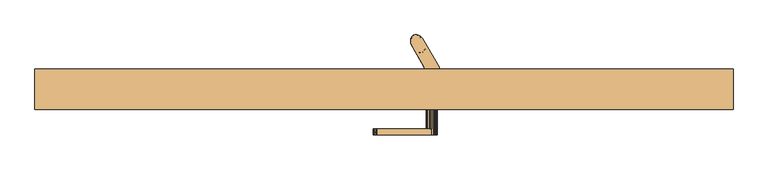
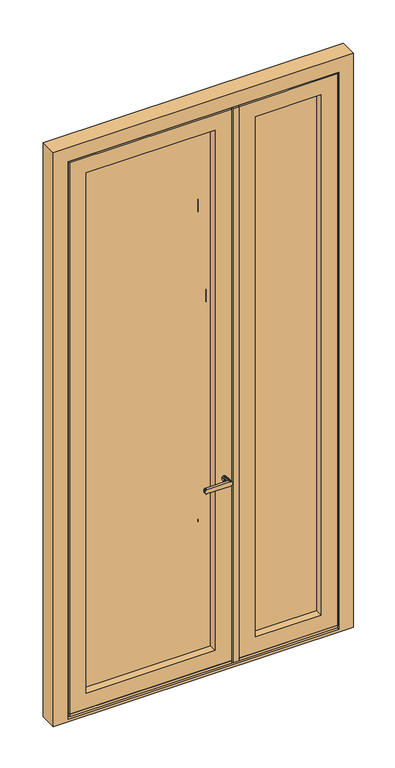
"""IFC4 building model written with IfcOpenShell, lengths in millimetres: door geometry, SAS ENTREE RDC 2x90."""

from ifc_helpers import new_model, si_unit, frame, origin, place, context, project, spatial, polyline, outline, extrude, faceted_brep, source, transform, mapped, element, save


def door_4b923fdf(model_context):
    return source(origin(), model_context, "Body", "SolidModel", [
        faceted_brep([(596.8067219, 464.9671188, 3173.5), (593.3206353, 464.7977178, 3173.5), (590.2202405, 463.6325784, 3173.5), (587.6610041, 461.5301259, 3173.5), (585.7712569, 458.5957857, 3173.5), (584.6457588, 454.9766982, 3173.5), (584.3409469, 450.8543393, 3173.5), (584.8721059, 446.4354214, 3173.5), (586.212601, 441.9415275, 3173.5), (588.2952144, 437.5980002, 3173.5), (591.0155151, 433.622642, 3173.5), (594.2370958, 430.2147941, 3173.5), (597.7984131, 427.5453402, 3173.5), (601.5208876, 425.7481378, 3173.5), (605.2178589, 424.9133062, 3173.5), (608.7039455, 425.0827073, 3173.5), (611.8043404, 426.2478466, 3173.5), (614.3635768, 428.3502991, 3173.5), (616.2533239, 431.2846393, 3173.5), (617.3788221, 434.9037268, 3173.5), (617.6836339, 439.0260857, 3173.5), (617.152475, 443.4450036, 3173.5), (615.8119798, 447.9388975, 3173.5), (613.7293665, 452.2824248, 3173.5), (611.0090658, 456.257783, 3173.5), (607.787485, 459.6656309, 3173.5), (604.2261678, 462.3350848, 3173.5), (600.5036932, 464.1322872, 3173.5), (614.3635768, 428.3502991, 213.5), (611.8043404, 426.2478466, 213.5), (608.7039455, 425.0827073, 213.5), (605.2178589, 424.9133062, 213.5), (601.5208876, 425.7481378, 213.5), (597.7984131, 427.5453402, 213.5), (594.2370958, 430.2147941, 213.5), (591.0155151, 433.622642, 213.5), (588.2952144, 437.5980002, 213.5), (586.212601, 441.9415275, 213.5), (584.8721059, 446.4354214, 213.5), (584.3409469, 450.8543393, 213.5), (584.6457588, 454.9766982, 213.5), (585.7712569, 458.5957857, 213.5), (587.6610041, 461.5301259, 213.5), (590.2202405, 463.6325784, 213.5), (593.3206353, 464.7977178, 213.5), (596.8067219, 464.9671188, 213.5), (600.5036932, 464.1322872, 213.5), (604.2261678, 462.3350848, 213.5), (607.787485, 459.6656309, 213.5), (611.0090658, 456.257783, 213.5), (613.7293665, 452.2824248, 213.5), (615.8119798, 447.9388975, 213.5), (617.152475, 443.4450036, 213.5), (617.6836339, 439.0260857, 213.5), (617.3788221, 434.9037268, 213.5), (616.2533239, 431.2846393, 213.5), (590.4499558, 463.7611995, 3109.7202739), (588.2952144, 437.5980002, 305.882384), (585.1085075, 456.8611962, 306.4622832), (598.640293, 464.6737836, 3080.5377144), (598.6402944, 464.6737832, 297.5878259), (597.2620664, 464.9171769, 447.5991387), (603.7250445, 462.633364, 369.6983238), (591.711958, 464.3371112, 368.3639702), (602.8653536, 463.1036002, 2017.9320828), (603.0687486, 462.9970291, 1923.1622134), (591.3227774, 464.1816353, 1969.471021), (584.3331908, 451.4374691, 3017.3016839), (588.8642379, 462.6929778, 3018.6360152), (585.5845848, 458.1711125, 2941.5941552), (588.2952144, 437.5980002, 3081.117616), (613.7293665, 452.2824248, 3081.1176143), (613.7293665, 452.2824248, 305.8823857), (601.1198392, 463.9007366, 2991.9159098), (584.5382143, 454.3273204, 395.0841039), (588.2952144, 437.5980002, 398.264768), (589.9939933, 463.4979492, 277.27972), (588.976153, 462.7836018, 1319.9077775), (589.7796697, 463.3627966, 1415.6471907), (601.3998252, 463.7869455, 1361.207705), (587.1572269, 460.9165369, 460.8307156), (592.0495868, 464.4572952, 528.0009637), (602.6527496, 463.2119189, 2756.8613183), (613.7293665, 452.2824248, 2710.4119218), (602.66564, 463.2054407, 2664.1031244), (585.1085082, 456.8611986, 3089.4121677), (584.3854571, 452.9196575, 1554.573611), (584.3448357, 452.1422464, 1651.9272043), (590.1564077, 463.5954092, 1600.8824188), (613.7293665, 452.2824248, 2988.7352287), (602.2392571, 463.4136252, 2849.455968), (613.7293665, 452.2824248, 2895.8823842), (613.7293665, 452.2824248, 2803.9704641), (613.7293665, 452.2824248, 2803.0295398), (584.3491777, 450.5987754, 721.6031625), (584.3683938, 452.6570795, 813.9855457), (591.6805436, 464.3252466, 769.1927828), (590.674165, 463.879234, 2710.4119319), (584.3863686, 452.9323319, 2480.6321356), (590.1593345, 463.5971273, 2433.4275348), (584.3576349, 452.4557224, 2388.1321376), (590.2843465, 463.6692748, 2525.1767042), (590.6741649, 463.8792339, 2617.7675376), (602.5405107, 463.2678387, 2570.094555), (588.2952144, 437.5980002, 952.5590718), (584.341774, 452.04303, 900.9287605), (588.2952144, 437.5980002, 860.1766878), (584.3792653, 452.8303552, 2201.0537221), (588.2952144, 437.5980002, 2249.2056961), (584.3576349, 452.4557225, 2295.5145235), (601.4930908, 463.7478511, 1732.6163357), (589.0552669, 462.8461042, 1694.8280712), (589.9680477, 463.4819893, 1788.9182175), (584.3535746, 452.3680714, 2573.0145176), (602.57149, 463.2524913, 1183.5150777), (602.9222982, 463.0740541, 1093.585659), (590.9146224, 463.9979308, 1134.754917), (584.3674595, 452.6409754, 1461.9559969), (588.2952144, 437.5980002, 1508.264768), (584.3560417, 452.4222865, 1371.4406735), (588.2952144, 437.5980002, 1415.6471519), (591.1522937, 464.1075509, 1878.9479538), (584.3676289, 452.6439126, 1832.4264532), (584.4509178, 453.6447667, 1925.0440673), (584.4216398, 453.3567772, 2664.0897353), (588.2952144, 437.5980002, 2341.8233122), (588.2952144, 437.5980002, 2432.5590722), (588.2952144, 437.5980002, 2434.4409282), (601.5334712, 463.7307401, 2384.8851606), (589.5361252, 463.1997646, 2341.8233312), (602.5253113, 463.2753443, 1829.1061855), (603.4915363, 462.7662363, 1645.4269877), (613.7293665, 452.2824248, 1969.4709896), (588.7615012, 462.6074467, 2864.0921725), (593.797621, 464.8834207, 2930.7084554), (613.7293665, 452.2824248, 1691.6181474), (613.7293665, 452.2824248, 1600.882384), (613.7293665, 452.2824248, 1599.2357617), (602.4089519, 463.3322747, 1457.4592045), (601.2348908, 463.854626, 1272.1664524), (613.7293665, 452.2824248, 1322.0886105), (613.7293665, 452.2824248, 1230.4119199), (613.7293665, 452.2824248, 1229.7062249), (584.3687755, 452.6635968, 1184.1031546), (590.1860605, 463.6127544, 1224.4782647), (584.3407574, 452.0061998, 1739.8088391), (588.2952144, 437.5980002, 1693.5), (588.2952144, 437.5980002, 1784.2357596), (588.2952144, 437.5980002, 1786.117616), (613.7293665, 452.2824248, 1878.735232), (613.7293665, 452.2824248, 1876.8533775), (602.163301, 463.4493953, 2476.0712384), (588.2952144, 437.5980002, 2339.941457), (613.7293665, 452.2824248, 2432.5590737), (613.7293665, 452.2824248, 2341.8233122), (613.7293665, 452.2824248, 2339.9414616), (584.4440531, 453.5809697, 2760.2029636), (588.2952144, 437.5980002, 2711.5880801), (590.2482291, 463.6486774, 1508.2251806), (602.668172, 463.2041669, 2108.3974412), (590.2856652, 463.6700231, 2156.5881032), (602.6424241, 463.2170997, 2201.0150551), (584.531336, 454.2800512, 2015.8333542), (584.4239259, 453.3809152, 2106.5480553), (590.6155836, 463.8490917, 2062.9662927), (588.2952144, 437.5980002, 767.7943039), (613.7293665, 452.2824248, 1044.9414594), (603.1550342, 462.9509461, 1008.1234025), (588.2952144, 437.5980002, 490.6471519), (584.3968634, 449.7531606, 461.1498017), (584.3575048, 452.4530358, 627.5817946), (584.4080079, 453.2055472, 536.8383937), (588.2952144, 437.5980002, 583.0295359), (601.9417644, 463.5514578, 713.3140472), (597.3229112, 464.9093372, 619.4560475), (588.1396118, 462.0377675, 689.6168276), (584.4131422, 453.2640699, 1085.3241351), (588.2952144, 437.5980002, 1137.7943039), (584.3371389, 451.8487196, 1276.7207687), (613.7293665, 452.2824248, 490.6471512), (613.7293665, 452.2824248, 398.2647713), (607.6466053, 459.7909707, 444.4560006), (613.7293665, 452.2824248, 860.176688), (604.0391138, 462.4485303, 906.3679313), (613.7293665, 452.2824248, 952.5590737), (588.2548113, 462.1504562, 621.8958332), (588.2952144, 437.5980002, 675.4119199), (590.2202406, 463.6325785, 853.4847613), (602.6512252, 463.2126842, 813.9855493), (604.9224541, 461.8904181, 2924.3179136), (613.7293665, 452.2824248, 2896.3528481), (591.7057261, 464.3347669, 2788.9717797), (584.8363626, 446.6084453, 2942.5440454), (588.2952144, 437.5980002, 2896.3528481), (588.2952144, 437.5980002, 2988.735232), (613.7293665, 452.2824248, 2619.2056961), (613.7293665, 452.2824248, 2617.7943038), (613.7293665, 452.2824248, 2711.5880801), (613.7293665, 452.2824248, 2525.1766858), (613.7293665, 452.2824248, 2434.4409282), (588.2952144, 437.5980002, 2525.1766874), (588.2952144, 437.5980002, 2526.8233122), (588.2952144, 437.5980002, 2803.029539), (588.2952144, 437.5980002, 2803.9704641), (601.8315197, 463.6009922, 2293.632669), (613.7293665, 452.2824248, 2154.7062256), (613.7293665, 452.2824248, 2249.2056961), (613.7293665, 452.2824248, 2247.3238436), (589.5992496, 463.2430151, 2250.0419288), (588.2952144, 437.5980002, 2617.7943085), (588.2952144, 437.5980002, 2619.2056961), (613.7293665, 452.2824248, 2526.8233122), (588.2952144, 437.5980002, 2710.4119238), (588.2952144, 437.5980002, 2156.5880801), (588.2952144, 437.5980002, 1878.735232), (588.2952144, 437.5980002, 1969.4709901), (588.2952144, 437.5980002, 1971.3528481), (588.2952144, 437.5980002, 2062.0886054), (588.2952144, 437.5980002, 2063.9704641), (613.7293665, 452.2824248, 2156.5880801), (613.7293665, 452.2824248, 2063.9704641), (613.7293665, 452.2824248, 2062.0886076), (588.2952144, 437.5980002, 2154.7062206), (588.2952144, 437.5980002, 2247.3238359), (613.7293665, 452.2824248, 1971.3528481), (613.7293665, 452.2824248, 1784.2357654), (613.7293665, 452.2824248, 1693.5), (613.7293665, 452.2824248, 1786.117616), (602.2568415, 463.4052876, 1553.0446058), (613.7293665, 452.2824248, 1506.853376), (613.7293665, 452.2824248, 1508.264768), (613.7293665, 452.2824248, 1414.4709962), (613.7293665, 452.2824248, 1323.0295359), (613.7293665, 452.2824248, 1137.323845), (613.7293665, 452.2824248, 1137.7943039), (588.2952144, 437.5980002, 1229.7062181), (588.2952144, 437.5980002, 1230.4119199), (588.2952144, 437.5980002, 1322.0886068), (588.2952144, 437.5980002, 1323.0295359), (584.6396633, 454.9435278, 986.3205896), (591.4648925, 464.2405737, 1044.9415053), (588.2952144, 437.5980002, 1045.1766878), (592.6430493, 464.6374177, 948.5095776), (588.2952144, 437.5980002, 1599.2357615), (588.2952144, 437.5980002, 1600.882384), (588.2952144, 437.5980002, 1876.8533749), (588.2952144, 437.5980002, 1414.4709956), (588.2952144, 437.5980002, 1506.8533785), (613.7293665, 452.2824248, 1415.6471519), (613.7293665, 452.2824248, 1045.1766878), (613.7293665, 452.2824248, 767.7943023), (607.6249513, 459.8100799, 629.2207827), (613.7293665, 452.2824248, 675.4119225), (613.7293665, 452.2824248, 583.0295368), (588.2952144, 437.5980002, 1691.6181444), (604.5793543, 462.1139705, 536.8383992), (588.2952144, 437.5980002, 1044.9414522), (588.2952144, 437.5980002, 1137.3238351), (584.3466632, 450.6679399, 2850.1616636), (588.2952144, 437.5980002, 2895.8823866), (611.574625, 426.1192255, 3109.7202739), (616.9160734, 433.0192288, 306.4622832), (603.3842879, 425.2066414, 3080.5377144), (603.3842865, 425.2066418, 297.5878259), (604.7625145, 424.9632481, 447.5991387), (598.2995363, 427.247061, 369.6983238), (610.3126228, 425.5433138, 368.3639702), (599.1592273, 426.7768248, 2017.9320828), (598.9558323, 426.8833959, 1923.1622134), (610.7018035, 425.6987897, 1969.471021), (617.6913901, 438.4429559, 3017.3016839), (613.160343, 427.1874472, 3018.6360152), (616.439996, 431.7093125, 2941.5941552), (600.9047417, 425.9796884, 2991.9159098), (617.4863666, 435.5531046, 395.0841039), (612.0305876, 426.3824758, 277.27972), (613.0484279, 427.0968232, 1319.9077775), (612.2449112, 426.5176284, 1415.6471907), (600.6247556, 426.0934795, 1361.207705), (614.867354, 428.9638881, 460.8307156), (609.974994, 425.4231298, 528.0009637), (599.3718313, 426.6685061, 2756.8613183), (599.3589408, 426.6749843, 2664.1031244), (616.9160726, 433.0192264, 3089.4121677), (617.6391237, 436.9607675, 1554.573611), (617.6797452, 437.7381786, 1651.9272043), (611.8681731, 426.2850158, 1600.8824188), (599.7853238, 426.4667998, 2849.455968), (617.6754031, 439.2816496, 721.6031625), (617.6561871, 437.2233455, 813.9855457), (610.3440372, 425.5551785, 769.1927828), (611.3504159, 426.001191, 2710.4119319), (617.6382123, 436.9480931, 2480.6321356), (611.8652464, 426.2832977, 2433.4275348), (617.666946, 437.4247026, 2388.1321376), (611.7402344, 426.2111502, 2525.1767042), (611.350416, 426.0011911, 2617.7675376), (599.4840702, 426.6125863, 2570.094555), (617.6828069, 437.837395, 900.9287605), (617.6453155, 437.0500698, 2201.0537221), (617.666946, 437.4247025, 2295.5145235), (600.5314901, 426.1325739, 1732.6163357), (612.969314, 427.0343208, 1694.8280712), (612.0565331, 426.3984357, 1788.9182175), (617.6710063, 437.5123536, 2573.0145176), (599.4530909, 426.6279337, 1183.5150777), (599.1022826, 426.8063709, 1093.585659), (611.1099584, 425.8824942, 1134.754917), (617.6571214, 437.2394496, 1461.9559969), (610.8722872, 425.7728741, 1878.9479538), (617.6569519, 437.2365124, 1832.4264532), (617.5736631, 436.2356583, 1925.0440673), (617.602941, 436.5236478, 2664.0897353), (600.4911096, 426.1496849, 2384.8851606), (612.4884557, 426.6806604, 2341.8233312), (599.4992696, 426.6050807, 1829.1061855), (598.5330446, 427.1141887, 1645.4269877), (613.2630797, 427.2729783, 2864.0921725), (608.2269598, 424.9970043, 2930.7084554), (599.6156289, 426.5481503, 1457.4592045), (600.7896901, 426.025799, 1272.1664524), (617.6558053, 437.2168282, 1184.1031546), (611.8385203, 426.2676706, 1224.4782647), (617.6838234, 437.8742252, 1739.8088391), (599.8612799, 426.4310297, 2476.0712384), (617.5805278, 436.2994553, 2760.2029636), (611.7763518, 426.2317476, 1508.2251806), (599.3564089, 426.6762581, 2108.3974412), (611.7389157, 426.2104019, 2156.5881032), (599.3821568, 426.6633253, 2201.0150551), (617.4932449, 435.6003738, 2015.8333542), (617.6006549, 436.4995098, 2106.5480553), (611.4089972, 426.0313333, 2062.9662927), (598.8695467, 426.9294789, 1008.1234025), (617.6277175, 440.1272644, 461.1498017), (617.667076, 437.4273892, 627.5817946), (617.616573, 436.6748778, 536.8383937), (600.0828164, 426.3289672, 713.3140472), (604.7016696, 424.9710878, 619.4560475), (613.8849691, 427.8426575, 689.6168276), (617.6114387, 436.6163551, 1085.3241351), (617.687442, 438.0317054, 1276.7207687), (594.3779756, 430.0894543, 444.4560006), (597.985467, 427.4318947, 906.3679313), (613.7697695, 427.7299688, 621.8958332), (611.8043403, 426.2478465, 853.4847613), (599.3733557, 426.6677408, 813.9855493), (597.1021268, 427.9900069, 2924.3179136), (610.3188548, 425.5456581, 2788.9717797), (617.1882183, 443.2719797, 2942.5440454), (600.1930612, 426.2794328, 2293.632669), (612.4253313, 426.6374099, 2250.0419288), (599.7677394, 426.4751374, 1553.0446058), (617.6685392, 437.4581385, 1371.4406735), (617.3849175, 434.9368972, 986.3205896), (610.5596884, 425.6398513, 1044.9415053), (609.3815316, 425.2430073, 948.5095776), (594.3996296, 430.0703451, 629.2207827), (597.4452266, 427.7664545, 536.8383992), (617.6779177, 439.2124851, 2850.1616636)], [[[0, 1, 2, 3, 4, 5, 6, 7, 8, 9, 10, 11, 12, 13, 14, 15, 16, 17, 18, 19, 20, 21, 22, 23, 24, 25, 26, 27]], [[28, 29, 30, 31, 32, 33, 34, 35, 36, 37, 38, 39, 40, 41, 42, 43, 44, 45, 46, 47, 48, 49, 50, 51, 52, 53, 54, 55]], [[56, 3, 2]], [[38, 57, 58]], [[59, 26, 25]], [[59, 0, 27]], [[47, 60, 48]], [[61, 62, 63]], [[64, 65, 66]], [[67, 68, 69]], [[45, 60, 46]], [[0, 56, 1]], [[70, 9, 8]], [[37, 36, 57]], [[24, 23, 71]], [[72, 50, 49]], [[59, 73, 68]], [[47, 46, 60]], [[74, 57, 75]], [[58, 76, 41]], [[77, 78, 79]], [[25, 24, 71]], [[80, 81, 61]], [[82, 83, 84]], [[6, 85, 7]], [[7, 70, 8]], [[86, 87, 88]], [[58, 57, 74]], [[60, 62, 72]], [[26, 59, 27]], [[73, 71, 89]], [[85, 67, 70]], [[76, 45, 44]], [[39, 58, 40]], [[90, 91, 92, 93]], [[94, 95, 96]], [[76, 44, 43]], [[84, 97, 82]], [[6, 5, 85]], [[98, 99, 100]], [[59, 56, 0]], [[85, 56, 68]], [[101, 102, 103]], [[58, 41, 40]], [[38, 37, 57]], [[60, 45, 76]], [[25, 71, 59]], [[76, 42, 41]], [[4, 3, 56]], [[63, 58, 74]], [[60, 76, 63]], [[4, 85, 5]], [[38, 58, 39]], [[48, 72, 49]], [[104, 105, 106]], [[56, 85, 4]], [[60, 72, 48]], [[59, 71, 73]], [[67, 85, 68]], [[62, 60, 63]], [[85, 70, 7]], [[107, 108, 109]], [[110, 111, 112]], [[98, 113, 101]], [[114, 115, 116]], [[86, 117, 118]], [[119, 120, 117]], [[121, 122, 123]], [[97, 102, 124]], [[100, 125, 126, 127]], [[99, 128, 129]], [[121, 130, 112]], [[131, 88, 111]], [[65, 64, 132]], [[112, 130, 110]], [[133, 69, 134]], [[131, 135, 136, 137]], [[78, 138, 79]], [[139, 140, 141, 142]], [[116, 143, 144]], [[145, 146, 147, 148]], [[65, 132, 149, 150]], [[151, 101, 103]], [[109, 108, 152, 125]], [[128, 153, 154, 155]], [[156, 124, 157]], [[158, 138, 78]], [[159, 160, 161]], [[162, 163, 164]], [[164, 159, 64]], [[95, 165, 106]], [[115, 166, 167]], [[75, 168, 169]], [[170, 171, 172]], [[173, 174, 175]], [[143, 176, 177]], [[178, 144, 143]], [[179, 180, 181]], [[171, 168, 172]], [[182, 183, 184]], [[170, 175, 185]], [[80, 169, 171]], [[94, 170, 186]], [[171, 81, 80]], [[95, 105, 187]], [[96, 173, 175]], [[96, 187, 188]], [[189, 89, 190, 91]], [[191, 90, 82]], [[124, 156, 97]], [[192, 193, 194]], [[82, 90, 93]], [[134, 189, 90]], [[90, 133, 134]], [[84, 83, 195, 196]], [[191, 82, 97]], [[82, 93, 197, 83]], [[103, 84, 196]], [[102, 97, 84]], [[151, 198, 199, 153]], [[198, 151, 103]], [[103, 102, 84]], [[102, 101, 113]], [[98, 127, 200, 201]], [[156, 157, 202, 203]], [[204, 128, 155]], [[99, 101, 151]], [[161, 205, 159]], [[204, 155, 206, 207]], [[204, 161, 208]], [[134, 68, 73]], [[191, 156, 133]], [[113, 201, 209, 210]], [[124, 113, 210]], [[98, 101, 99]], [[103, 196, 211, 198]], [[113, 124, 102]], [[98, 201, 113]], [[124, 210, 212, 157]], [[128, 99, 151]], [[125, 100, 109]], [[128, 151, 153]], [[129, 128, 204]], [[100, 99, 129]], [[98, 100, 127]], [[109, 100, 129]], [[107, 109, 208]], [[129, 208, 109]], [[163, 107, 160]], [[163, 213, 107]], [[204, 208, 129]], [[160, 107, 208]], [[160, 164, 163]], [[123, 214, 215, 216]], [[162, 216, 217, 218]], [[163, 162, 218]], [[123, 66, 121]], [[207, 161, 204]], [[162, 66, 123]], [[161, 207, 219, 205]], [[159, 205, 220, 221]], [[208, 161, 160]], [[64, 159, 221]], [[159, 164, 160]], [[163, 218, 222, 213]], [[107, 213, 223, 108]], [[164, 64, 66]], [[64, 221, 224, 132]], [[130, 65, 150]], [[121, 66, 65]], [[110, 225, 226, 135]], [[225, 110, 130]], [[131, 110, 135]], [[110, 131, 111]], [[130, 121, 65]], [[121, 112, 122]], [[130, 150, 227, 225]], [[138, 228, 229]], [[228, 137, 230, 229]], [[158, 88, 228]], [[79, 231, 232, 140]], [[231, 79, 138]], [[114, 139, 142]], [[79, 139, 77]], [[115, 114, 233]], [[114, 142, 234, 233]], [[139, 114, 144]], [[143, 177, 235, 236]], [[78, 119, 117]], [[143, 236, 178]], [[178, 236, 237, 238]], [[116, 176, 143]], [[239, 176, 240]], [[239, 241, 176]], [[242, 239, 240]], [[187, 105, 242]], [[86, 118, 243, 244]], [[122, 148, 245, 214]], [[112, 145, 122]], [[123, 122, 214]], [[145, 112, 111]], [[86, 244, 87]], [[145, 87, 146]], [[86, 88, 158]], [[138, 158, 228]], [[158, 78, 117]], [[158, 117, 86]], [[78, 77, 119]], [[119, 238, 246, 120]], [[117, 120, 247, 118]], [[119, 77, 178]], [[66, 162, 164]], [[216, 162, 123]], [[138, 229, 248, 231]], [[167, 184, 183]], [[116, 115, 240]], [[115, 233, 249, 166]], [[176, 116, 240]], [[114, 116, 144]], [[167, 240, 115]], [[187, 183, 188]], [[188, 250, 173]], [[250, 188, 182]], [[183, 187, 242]], [[251, 252, 253]], [[171, 170, 185]], [[105, 95, 106]], [[239, 105, 104]], [[95, 187, 96]], [[122, 145, 148]], [[87, 145, 111]], [[87, 111, 88]], [[87, 244, 254, 146]], [[173, 252, 251]], [[174, 251, 255]], [[137, 228, 131]], [[88, 131, 228]], [[77, 139, 144]], [[139, 79, 140]], [[119, 178, 238]], [[178, 77, 144]], [[186, 165, 94]], [[185, 175, 174]], [[170, 172, 186]], [[184, 167, 166]], [[242, 240, 167]], [[239, 104, 256, 241]], [[176, 241, 257, 177]], [[105, 239, 242]], [[255, 253, 179]], [[72, 62, 180]], [[80, 63, 74]], [[61, 181, 62]], [[61, 81, 255]], [[258, 203, 259, 193]], [[70, 67, 194]], [[258, 156, 203]], [[69, 192, 67]], [[69, 133, 258]], [[188, 183, 182]], [[167, 183, 242]], [[173, 96, 188]], [[96, 175, 94]], [[173, 250, 252]], [[63, 80, 61]], [[80, 74, 169]], [[95, 94, 165]], [[170, 94, 175]], [[258, 193, 192]], [[156, 258, 133]], [[68, 134, 69]], [[134, 73, 189]], [[89, 189, 73]], [[90, 189, 91]], [[255, 179, 181]], [[174, 255, 81]], [[75, 169, 74]], [[171, 169, 168]], [[156, 191, 97]], [[90, 191, 133]], [[42, 76, 43]], [[63, 76, 58]], [[1, 56, 2]], [[68, 56, 59]], [[174, 81, 185]], [[171, 185, 81]], [[62, 181, 180]], [[255, 181, 61]], [[67, 192, 194]], [[258, 192, 69]], [[255, 251, 253]], [[173, 251, 174]], [[260, 17, 16]], [[52, 72, 261]], [[262, 12, 11]], [[262, 14, 13]], [[33, 263, 34]], [[264, 265, 266]], [[267, 268, 269]], [[270, 271, 272]], [[31, 263, 32]], [[14, 260, 15]], [[71, 23, 22]], [[51, 50, 72]], [[10, 9, 70]], [[57, 36, 35]], [[262, 273, 271]], [[33, 32, 263]], [[274, 72, 180]], [[261, 275, 55]], [[276, 277, 278]], [[11, 10, 70]], [[279, 280, 264]], [[281, 212, 282]], [[20, 283, 21]], [[21, 71, 22]], [[284, 285, 286]], [[261, 72, 274]], [[263, 265, 57]], [[12, 262, 13]], [[273, 70, 194]], [[283, 270, 71]], [[275, 31, 30]], [[53, 261, 54]], [[287, 259, 203, 202]], [[288, 289, 290]], [[275, 30, 29]], [[282, 291, 281]], [[20, 19, 283]], [[292, 293, 294]], [[262, 260, 14]], [[283, 260, 271]], [[295, 296, 297]], [[261, 55, 54]], [[52, 51, 72]], [[263, 31, 275]], [[11, 70, 262]], [[275, 28, 55]], [[18, 17, 260]], [[266, 261, 274]], [[263, 275, 266]], [[18, 283, 19]], [[52, 261, 53]], [[34, 57, 35]], [[184, 298, 182]], [[260, 283, 18]], [[263, 57, 34]], [[262, 70, 273]], [[270, 283, 271]], [[265, 263, 266]], [[283, 71, 21]], [[299, 206, 300]], [[301, 302, 303]], [[292, 304, 295]], [[305, 306, 307]], [[284, 230, 137, 136]], [[308, 230, 284]], [[309, 310, 311]], [[291, 296, 312]], [[294, 154, 153, 199]], [[293, 313, 314]], [[309, 315, 303]], [[316, 286, 302]], [[268, 267, 215]], [[303, 315, 301]], [[317, 272, 318]], [[316, 254, 244, 243]], [[277, 319, 278]], [[320, 237, 236, 235]], [[307, 321, 322]], [[323, 226, 225, 227]], [[268, 215, 214, 245]], [[324, 295, 297]], [[300, 206, 155, 154]], [[313, 126, 125, 152]], [[325, 312, 197]], [[326, 319, 277]], [[327, 328, 329]], [[330, 331, 332]], [[332, 327, 267]], [[289, 250, 182]], [[306, 256, 333]], [[180, 179, 334]], [[335, 336, 253]], [[337, 338, 339]], [[321, 340, 234]], [[341, 322, 321]], [[168, 75, 342]], [[336, 179, 253]], [[106, 343, 104]], [[335, 339, 344]], [[279, 334, 336]], [[288, 335, 252]], [[336, 280, 279]], [[289, 298, 345]], [[290, 337, 339]], [[290, 345, 346]], [[347, 194, 193, 259]], [[348, 287, 281]], [[312, 325, 291]], [[349, 190, 89]], [[281, 287, 202]], [[318, 347, 287]], [[287, 317, 318]], [[282, 212, 210, 209]], [[348, 281, 291]], [[281, 202, 157, 212]], [[297, 282, 209]], [[296, 291, 282]], [[324, 200, 127, 126]], [[200, 324, 297]], [[297, 296, 282]], [[296, 295, 304]], [[292, 199, 198, 211]], [[325, 197, 93, 92]], [[350, 313, 152]], [[293, 295, 324]], [[329, 222, 327]], [[350, 152, 108, 223]], [[350, 329, 351]], [[318, 271, 273]], [[348, 325, 317]], [[304, 211, 196, 195]], [[312, 304, 195]], [[292, 295, 293]], [[297, 209, 201, 200]], [[304, 312, 296]], [[292, 211, 304]], [[312, 195, 83, 197]], [[313, 293, 324]], [[154, 294, 300]], [[313, 324, 126]], [[314, 313, 350]], [[294, 293, 314]], [[292, 294, 199]], [[300, 294, 314]], [[299, 300, 351]], [[314, 351, 300]], [[331, 299, 328]], [[331, 219, 299]], [[350, 351, 314]], [[328, 299, 351]], [[328, 332, 331]], [[311, 149, 132, 224]], [[330, 224, 221, 220]], [[331, 330, 220]], [[311, 269, 309]], [[223, 329, 350]], [[330, 269, 311]], [[329, 223, 213, 222]], [[327, 222, 218, 217]], [[351, 329, 328]], [[267, 327, 217]], [[327, 332, 328]], [[331, 220, 205, 219]], [[299, 219, 207, 206]], [[332, 267, 269]], [[267, 217, 216, 215]], [[315, 268, 245]], [[309, 269, 268]], [[301, 147, 146, 254]], [[147, 301, 315]], [[316, 301, 254]], [[301, 316, 302]], [[315, 309, 268]], [[309, 303, 310]], [[315, 245, 148, 147]], [[319, 352, 247]], [[352, 243, 118, 247]], [[326, 286, 352]], [[278, 246, 238, 237]], [[246, 278, 319]], [[305, 320, 235]], [[278, 320, 276]], [[306, 305, 257]], [[305, 235, 177, 257]], [[320, 305, 322]], [[321, 234, 142, 141]], [[277, 353, 308]], [[321, 141, 341]], [[341, 141, 140, 232]], [[307, 340, 321]], [[354, 340, 355]], [[354, 249, 340]], [[356, 354, 355]], [[345, 298, 356]], [[285, 284, 136]], [[310, 227, 150, 149]], [[303, 323, 310]], [[311, 310, 149]], [[323, 303, 302]], [[326, 284, 286]], [[323, 285, 226]], [[284, 326, 308]], [[319, 326, 352]], [[326, 277, 308]], [[353, 277, 276]], [[353, 248, 308]], [[353, 232, 231, 248]], [[308, 248, 229, 230]], [[353, 276, 341]], [[269, 330, 332]], [[224, 330, 311]], [[319, 247, 120, 246]], [[333, 104, 343]], [[307, 306, 355]], [[306, 257, 241, 256]], [[340, 307, 355]], [[305, 307, 322]], [[333, 355, 306]], [[345, 343, 346]], [[346, 165, 337]], [[165, 346, 106]], [[343, 345, 356]], [[357, 186, 172]], [[336, 335, 344]], [[298, 289, 182]], [[354, 298, 184]], [[289, 345, 290]], [[310, 323, 227]], [[285, 323, 302]], [[285, 302, 286]], [[285, 136, 135, 226]], [[337, 186, 357]], [[338, 357, 358]], [[243, 352, 316]], [[286, 316, 352]], [[276, 320, 322]], [[320, 278, 237]], [[353, 341, 232]], [[341, 276, 322]], [[252, 250, 288]], [[344, 339, 338]], [[335, 253, 252]], [[104, 333, 256]], [[356, 355, 333]], [[354, 184, 166, 249]], [[340, 249, 233, 234]], [[298, 354, 356]], [[358, 172, 168]], [[57, 265, 75]], [[279, 266, 274]], [[264, 342, 265]], [[264, 280, 358]], [[359, 92, 91, 190]], [[71, 270, 89]], [[359, 325, 92]], [[272, 349, 270]], [[272, 317, 359]], [[346, 343, 106]], [[333, 343, 356]], [[337, 290, 346]], [[290, 339, 288]], [[337, 165, 186]], [[266, 279, 264]], [[279, 274, 334]], [[289, 288, 250]], [[335, 288, 339]], [[359, 190, 349]], [[325, 359, 317]], [[271, 318, 272]], [[318, 273, 347]], [[194, 347, 273]], [[287, 347, 259]], [[358, 168, 342]], [[338, 358, 280]], [[180, 334, 274]], [[336, 334, 179]], [[325, 348, 291]], [[287, 348, 317]], [[28, 275, 29]], [[266, 275, 261]], [[15, 260, 16]], [[271, 260, 262]], [[338, 280, 344]], [[336, 344, 280]], [[265, 342, 75]], [[358, 342, 264]], [[270, 349, 89]], [[359, 349, 272]], [[358, 357, 172]], [[337, 357, 338]]]),
        faceted_brep([(-174.0, 299.0, 3204.0), (-174.0, 299.0, 165.0072496), (-174.0, 307.3, 167.8651688), (-174.0, 307.3, 3204.0), (-194.5, 307.3, 167.8651688), (-194.5, 307.3, 3224.5), (1244.5, 307.3, 3224.5), (1244.5, 307.3, 167.8651688), (1224.0, 307.3, 167.8651688), (1224.0, 307.3, 3204.0), (-194.5, 313.5, 170.0), (-194.5, 321.0, 170.0), (-194.5, 321.0, 164.3), (-194.5, 380.7, 164.3), (-194.5, 380.7, 3224.5), (-206.0, 388.9993365, 150.0), (-206.0, 388.9993365, 3236.0), (-206.0, 380.7, 3236.0), (-206.0, 380.7, 150.0), (-250.0, 388.9993365, 150.0), (-250.0, 388.9993365, 3280.0), (1300.0, 388.9993365, 3280.0), (1300.0, 388.9993365, 150.0), (1256.0, 388.9993365, 150.0), (1256.0, 388.9993365, 3236.0), (1224.0, 299.0, 165.0072496), (1224.0, 299.0, 3204.0), (1256.0, 380.7, 150.0), (1256.0, 380.7, 3236.0), (1244.5, 380.7, 3224.5), (1244.5, 380.7, 164.3), (1244.5, 321.0, 164.3), (1244.5, 321.0, 170.0), (1244.5, 313.5, 170.0), (-250.0, 299.0, 3280.0), (1300.0, 299.0, 3280.0), (-250.0, 299.0, 150.0), (1300.0, 299.0, 150.0)], [[[0, 1, 2, 3]], [[3, 2, 4, 5, 6, 7, 8, 9]], [[5, 4, 10, 11, 12, 13, 14]], [[15, 16, 17, 18]], [[19, 20, 21, 22, 23, 24, 16, 15]], [[9, 8, 25, 26]], [[24, 23, 27, 28]], [[29, 30, 31, 32, 33, 7, 6]], [[26, 0, 3, 9]], [[28, 17, 16, 24]], [[21, 20, 34, 35]], [[5, 14, 29, 6]], [[19, 36, 34, 20]], [[35, 37, 22, 21]], [[34, 36, 37, 35], [26, 25, 1, 0]], [[18, 27, 23, 22, 37, 36, 19, 15]], [[10, 4, 2, 1, 25, 8, 7, 33]], [[28, 27, 18, 17], [13, 30, 29, 14]], [[31, 30, 13, 12]], [[12, 11, 32, 31]], [[11, 10, 33, 32]]]),
        faceted_brep([(647.9561005, 393.0, 243.5), (614.0438995, 393.0, 243.5), (614.0438995, 389.0, 243.5), (647.9561005, 389.0, 243.5), (647.9561005, 393.0, 213.5), (614.0438995, 393.0, 213.5), (614.0438995, 393.0, 209.5), (614.0438995, 389.0, 209.5), (647.9561005, 389.0, 209.5), (647.9561005, 393.0, 209.5), (593.3206375, 464.7977182, 213.5), (590.2202421, 463.6325794, 213.5), (587.6610052, 461.5301271, 213.5), (585.7712575, 458.5957871, 213.5), (584.645759, 454.9766994, 213.5), (584.3409469, 450.8543403, 213.5), (584.8721057, 446.4354221, 213.5), (586.2126009, 441.9415279, 213.5), (588.2952144, 437.5980002, 213.5), (613.7293692, 452.2824201, 213.5), (611.0090689, 456.2577791, 213.5), (607.7874883, 459.6656279, 213.5), (604.226171, 462.3350828, 213.5), (600.5036962, 464.1322861, 213.5), (596.8067245, 464.9671186, 213.5), (588.2952144, 437.5980002, 209.5), (586.2126009, 441.9415279, 209.5), (584.8721057, 446.4354221, 209.5), (584.3409469, 450.8543403, 209.5), (584.645759, 454.9766994, 209.5), (585.7712575, 458.5957871, 209.5), (587.6610052, 461.5301271, 209.5), (590.2202421, 463.6325794, 209.5), (593.3206375, 464.7977182, 209.5), (596.8067245, 464.9671186, 209.5), (600.5036962, 464.1322861, 209.5), (604.226171, 462.3350828, 209.5), (607.7874883, 459.6656279, 209.5), (611.0090689, 456.2577791, 209.5), (613.7293692, 452.2824201, 209.5), (613.7293692, 452.2824201, 211.9099144), (588.2952144, 437.5980002, 211.0900847), (586.6256711, 460.1586471, 211.5), (598.6402947, 464.6737832, 211.5), (584.3554423, 450.4468941, 211.5)], [[[0, 1, 2, 3]], [[1, 0, 4, 5]], [[5, 6, 7, 2, 1]], [[2, 7, 8, 3]], [[4, 0, 3, 8, 9]], [[10, 11, 12, 13, 14, 15, 16, 17, 18, 5, 4, 19, 20, 21, 22, 23, 24]], [[9, 8, 7, 6, 25, 26, 27, 28, 29, 30, 31, 32, 33, 34, 35, 36, 37, 38, 39]], [[4, 9, 39, 40, 19]], [[6, 5, 18, 41, 25]], [[20, 19, 40]], [[40, 39, 38]], [[12, 42, 13]], [[40, 37, 43]], [[38, 37, 40]], [[35, 34, 43]], [[21, 43, 22]], [[23, 43, 24]], [[43, 33, 32]], [[26, 25, 41]], [[41, 18, 17]], [[35, 43, 36]], [[40, 21, 20]], [[43, 34, 33]], [[42, 30, 29]], [[43, 37, 36]], [[44, 41, 17]], [[43, 23, 22]], [[43, 10, 24]], [[43, 21, 40]], [[10, 43, 11]], [[42, 43, 32]], [[42, 31, 30]], [[28, 44, 29]], [[41, 27, 26]], [[41, 44, 27]], [[27, 44, 28]], [[17, 16, 44]], [[11, 43, 42]], [[31, 42, 32]], [[12, 11, 42]], [[13, 42, 14]], [[14, 42, 44]], [[44, 42, 29]], [[44, 15, 14]], [[44, 16, 15]]]),
        faceted_brep([(642.5801281, 299.0, 1203.102886), (642.9886308, 299.0, 1200.0), (642.5801281, 299.0, 1196.897114), (641.3824588, 299.0, 1194.0056846), (639.4772421, 299.0, 1191.5227579), (636.9943154, 299.0, 1189.6175412), (634.102886, 299.0, 1188.4198719), (631.0, 299.0, 1188.0113692), (627.897114, 299.0, 1188.4198719), (625.0056846, 299.0, 1189.6175412), (622.5227579, 299.0, 1191.5227579), (620.6175412, 299.0, 1194.0056846), (619.4198719, 299.0, 1196.897114), (619.0113692, 299.0, 1200.0), (619.4198719, 299.0, 1203.102886), (620.6175412, 299.0, 1205.9943154), (622.5227579, 299.0, 1208.4772421), (625.0056846, 299.0, 1210.3824588), (627.897114, 299.0, 1211.5801281), (631.0, 299.0, 1211.9886308), (634.102886, 299.0, 1211.5801281), (636.9943154, 299.0, 1210.3824588), (639.4772421, 299.0, 1208.4772421), (641.3824588, 299.0, 1205.9943154), (631.0, 255.5001175, 1188.0113692), (627.897114, 255.5001175, 1188.4198719), (625.0056846, 255.5001175, 1189.6175412), (622.5227579, 255.5001175, 1191.5227579), (620.6175412, 255.5001175, 1194.0056846), (619.4198719, 255.5001175, 1196.897114), (619.0113692, 255.5001175, 1200.0), (619.4198719, 255.5001175, 1203.102886), (620.6175412, 255.5001175, 1205.9943154), (622.5227579, 255.5001175, 1208.4772421), (625.0056846, 255.5001175, 1210.3824588), (627.897114, 255.5001175, 1211.5801281), (631.0, 255.5001175, 1211.9886308), (631.0, 243.0000305, 1211.9886308), (634.102886, 243.0000305, 1211.5801281), (636.9943154, 243.0000305, 1210.3824588), (639.4772421, 243.0000305, 1208.4772421), (641.3824588, 243.0000305, 1205.9943154), (642.5801281, 243.0000305, 1203.102886), (642.9886308, 243.0000305, 1200.0), (642.5801281, 243.0000305, 1196.897114), (641.3824588, 243.0000305, 1194.0056846), (639.4772421, 243.0000305, 1191.5227579), (636.9943154, 243.0000305, 1189.6175412), (634.102886, 243.0000305, 1188.4198719), (631.0, 243.0000305, 1188.0113692), (509.3382074, 243.0000305, 1211.9886308), (507.7960029, 243.0000305, 1211.7582726), (506.3130644, 243.0000305, 1211.0760506), (504.9463805, 243.0000305, 1209.9681822), (503.7484721, 243.0000305, 1208.4772421), (502.765374, 243.0000305, 1206.6605264), (502.0348662, 243.0000305, 1204.5878504), (501.5850218, 243.0000305, 1202.3388658), (501.4331279, 243.0000305, 1200.0), (501.5850218, 243.0000305, 1197.6611342), (502.0348662, 243.0000305, 1195.4121496), (502.765374, 243.0000305, 1193.3394736), (503.7484721, 243.0000305, 1191.5227579), (504.9463805, 243.0000305, 1190.0318178), (506.3130644, 243.0000305, 1188.9239494), (507.7960029, 243.0000305, 1188.2417274), (509.3382074, 243.0000305, 1188.0113692), (501.5850218, 255.5001175, 1197.6611342), (501.4331279, 255.5001175, 1200.0), (501.5850218, 255.5001175, 1202.3388658), (502.0348662, 255.5001175, 1204.5878504), (502.765374, 255.5001175, 1206.6605264), (503.7484721, 255.5001175, 1208.4772421), (504.9463805, 255.5001175, 1209.9681822), (506.3130644, 255.5001175, 1211.0760506), (507.7960029, 255.5001175, 1211.7582726), (509.3382074, 255.5001175, 1211.9886308), (509.3382074, 255.5001175, 1188.0113692), (507.7960029, 255.5001175, 1188.2417274), (506.3130644, 255.5001175, 1188.9239494), (504.9463805, 255.5001175, 1190.0318178), (503.7484721, 255.5001175, 1191.5227579), (502.765374, 255.5001175, 1193.3394736), (502.0348662, 255.5001175, 1195.4121496), (509.3382074, 250.0756599, 1188.0113692), (505.6117788, 249.2500761, 1189.4269715), (503.2274983, 249.2500743, 1192.3944932), (501.773518, 249.250074, 1196.5198842), (502.3665497, 249.250074, 1205.6514014), (501.471193, 249.2500741, 1201.1750915), (504.323278, 249.250074, 1209.2673369), (507.0434839, 249.250074, 1211.4724044), (509.3382074, 249.250074, 1211.9886308)], [[[0, 1, 2, 3, 4, 5, 6, 7, 8, 9, 10, 11, 12, 13, 14, 15, 16, 17, 18, 19, 20, 21, 22, 23]], [[7, 24, 25, 8]], [[8, 25, 26, 9]], [[11, 10, 27, 28]], [[27, 10, 9, 26]], [[12, 11, 28, 29]], [[12, 29, 30, 13]], [[13, 30, 31, 14]], [[14, 31, 32, 15]], [[17, 16, 33, 34]], [[33, 16, 15, 32]], [[18, 17, 34, 35]], [[18, 35, 36, 19]], [[19, 36, 37, 38, 20]], [[20, 38, 39, 21]], [[23, 22, 40, 41]], [[40, 22, 21, 39]], [[0, 23, 41, 42]], [[0, 42, 43, 1]], [[1, 43, 44, 2]], [[2, 44, 45, 3]], [[5, 4, 46, 47]], [[46, 4, 3, 45]], [[6, 5, 47, 48]], [[6, 48, 49, 24, 7]], [[44, 43, 42, 41, 40, 39, 38, 37, 50, 51, 52, 53, 54, 55, 56, 57, 58, 59, 60, 61, 62, 63, 64, 65, 66, 49, 48, 47, 46, 45]], [[67, 68, 69, 70, 71, 72, 73, 74, 75, 76, 36, 35, 34, 33, 32, 31, 30, 29, 28, 27, 26, 25, 24, 77, 78, 79, 80, 81, 82, 83]], [[24, 49, 66, 84, 77]], [[65, 64, 85]], [[86, 85, 63]], [[82, 87, 83]], [[80, 86, 81]], [[69, 88, 70]], [[84, 85, 78]], [[87, 60, 59]], [[89, 57, 56]], [[60, 87, 86]], [[73, 90, 91, 74]], [[62, 61, 86]], [[90, 72, 71, 88]], [[89, 87, 58]], [[79, 85, 80]], [[78, 77, 84]], [[65, 84, 66]], [[79, 78, 85]], [[87, 59, 58]], [[63, 85, 64]], [[61, 60, 86]], [[63, 62, 86]], [[81, 86, 82]], [[80, 85, 86]], [[75, 92, 76]], [[51, 50, 92]], [[88, 55, 54, 90]], [[82, 86, 87]], [[84, 65, 85]], [[67, 83, 87]], [[53, 52, 91, 90]], [[67, 87, 89]], [[88, 56, 55]], [[56, 88, 89]], [[52, 51, 91]], [[90, 54, 53]], [[68, 67, 89]], [[68, 89, 69]], [[69, 89, 88]], [[70, 88, 71]], [[51, 92, 91]], [[90, 73, 72]], [[74, 91, 75]], [[91, 92, 75]], [[89, 58, 57]], [[37, 36, 76, 92, 50]]]),
        extrude(outline(polyline([(599.0, 378.0), (599.0, 340.0), (-97.0, 340.0), (-97.0, 378.0), (599.0, 378.0)])), frame((0.0, 0.0, 260.0), z_axis=(0.0, 0.0, 1.0), x_axis=(1.0, 0.0, 0.0)), (0.0, 0.0, 1.0), 2867.0),
        extrude(outline(polyline([(676.0, 299.0), (676.0, 307.3), (708.0, 307.3), (708.0, 299.0), (676.0, 299.0)])), frame((0.0, 0.0, 176.0160203), z_axis=(0.0, 0.0, 1.0), x_axis=(1.0, 0.0, 0.0)), (0.0, 0.0, 1.0), 3020.9839797),
        faceted_brep([(1131.9999695, 340.0, 3111.9999695), (1131.9999695, 340.0, 275.0000305), (1131.9999695, 299.0, 275.0000305), (1131.9999695, 299.0, 3111.9999695), (1217.0, 299.0, 3197.0), (708.0, 299.0, 3197.0), (708.0, 299.0, 190.0), (1217.0, 299.0, 190.0), (793.0000305, 299.0, 275.0000305), (793.0000305, 299.0, 3111.9999695), (793.0000305, 340.0, 275.0000305), (1147.0, 340.0, 260.0), (778.0, 340.0, 260.0), (778.0, 340.0, 3127.0), (1147.0, 340.0, 3127.0), (793.0000305, 340.0, 3111.9999695), (1147.0, 378.0, 3127.0), (1147.0, 378.0, 260.0), (778.0, 378.0, 260.0), (778.0, 378.0, 3127.0), (1130.0, 378.0, 277.0), (795.0, 378.0, 277.0), (795.0, 378.0, 3110.0), (1130.0, 378.0, 3110.0), (1130.0, 389.0, 3110.0), (1130.0, 389.0, 277.0), (795.0, 389.0, 277.0), (1249.0, 389.0, 158.0), (708.0, 389.0, 158.0), (708.0, 389.0, 3229.0), (1249.0, 389.0, 3229.0), (795.0, 389.0, 3110.0), (1249.0, 380.7, 3229.0), (1249.0, 380.7, 158.0), (708.0, 380.7, 158.0), (708.0, 380.7, 3229.0), (708.0, 380.7, 3208.5), (1228.5, 380.7, 3208.5), (1228.5, 380.7, 178.5), (708.0, 380.7, 178.5), (1228.5, 307.3, 3208.5), (1228.5, 307.3, 178.5), (696.5, 307.3, 178.5), (696.5, 380.7, 178.5), (696.5, 307.3, 3208.5), (1217.0, 307.3, 190.0), (708.0, 307.3, 190.0), (708.0, 307.3, 3197.0), (1217.0, 307.3, 3197.0), (696.5, 380.7, 3208.5)], [[[0, 1, 2, 3]], [[4, 5, 6, 7], [2, 8, 9, 3]], [[1, 10, 8, 2]], [[11, 12, 13, 14], [0, 15, 10, 1]], [[16, 17, 11, 14]], [[17, 18, 12, 11]], [[16, 19, 18, 17], [20, 21, 22, 23]], [[24, 25, 20, 23]], [[25, 26, 21, 20]], [[27, 28, 29, 30], [24, 31, 26, 25]], [[32, 33, 27, 30]], [[33, 34, 28, 27]], [[32, 35, 36, 37, 38, 39, 34, 33]], [[40, 41, 38, 37]], [[41, 42, 43, 39, 38]], [[40, 44, 42, 41], [45, 46, 47, 48]], [[4, 7, 45, 48]], [[7, 6, 46, 45]], [[10, 15, 9, 8]], [[18, 19, 13, 12]], [[26, 31, 22, 21]], [[42, 44, 49, 43]], [[3, 9, 15, 0]], [[14, 13, 19, 16]], [[23, 22, 31, 24]], [[30, 29, 35, 32]], [[37, 36, 49, 44, 40]], [[48, 47, 5, 4]], [[36, 35, 29, 28, 34, 39]], [[39, 43, 49, 36]], [[6, 5, 47, 46]]]),
        extrude(outline(polyline([(1217.0, 299.0), (708.0, 299.0), (708.0, 307.3), (1217.0, 307.3), (1217.0, 299.0)])), frame((0.0, 0.0, 176.0160203), z_axis=(0.0, 0.0, 1.0), x_axis=(1.0, 0.0, 0.0)), (0.0, 0.0, 1.0), 13.9839797),
        faceted_brep([(614.0438995, 393.0, 3143.5), (647.9561005, 393.0, 3143.5), (647.9561005, 389.0, 3143.5), (614.0438995, 389.0, 3143.5), (614.0438995, 393.0, 3173.5), (647.9561005, 393.0, 3173.5), (614.0438995, 389.0, 3177.5), (614.0438995, 393.0, 3177.5), (647.9561005, 389.0, 3177.5), (647.9561005, 393.0, 3177.5), (613.7293665, 452.2824248, 3173.5), (588.2952144, 437.5980002, 3173.5), (586.212601, 441.9415275, 3173.5), (584.8721059, 446.4354214, 3173.5), (584.3409469, 450.8543393, 3173.5), (584.6457588, 454.9766982, 3173.5), (585.7712569, 458.5957857, 3173.5), (587.6610041, 461.5301259, 3173.5), (590.2202405, 463.6325784, 3173.5), (593.3206353, 464.7977178, 3173.5), (596.8067219, 464.9671188, 3173.5), (600.5036932, 464.1322872, 3173.5), (604.2261678, 462.3350848, 3173.5), (607.787485, 459.6656309, 3173.5), (611.0090658, 456.257783, 3173.5), (596.8067219, 464.9671188, 3177.5), (593.3206353, 464.7977178, 3177.5), (590.2202405, 463.6325784, 3177.5), (587.6610041, 461.5301259, 3177.5), (585.7712569, 458.5957857, 3177.5), (584.6457588, 454.9766982, 3177.5), (584.3409469, 450.8543393, 3177.5), (584.8721059, 446.4354214, 3177.5), (586.212601, 441.9415275, 3177.5), (588.2952144, 437.5980002, 3177.5), (613.7293665, 452.2824248, 3177.5), (611.0090658, 456.257783, 3177.5), (607.787485, 459.6656309, 3177.5), (604.2261678, 462.3350848, 3177.5), (600.5036932, 464.1322872, 3177.5), (613.7293665, 452.2824248, 3175.9099144), (588.2952144, 437.5980002, 3175.0900863), (586.6256703, 460.1586458, 3175.5), (598.6402919, 464.6737838, 3175.5), (584.3554423, 450.4468931, 3175.5)], [[[0, 1, 2, 3]], [[4, 5, 1, 0]], [[4, 0, 3, 6, 7]], [[6, 3, 2, 8]], [[5, 9, 8, 2, 1]], [[10, 5, 4, 11, 12, 13, 14, 15, 16, 17, 18, 19, 20, 21, 22, 23, 24]], [[25, 26, 27, 28, 29, 30, 31, 32, 33, 34, 7, 6, 8, 9, 35, 36, 37, 38, 39]], [[9, 5, 10, 40, 35]], [[4, 7, 34, 41, 11]], [[36, 35, 40]], [[40, 10, 24]], [[28, 42, 29]], [[40, 23, 43]], [[24, 23, 40]], [[21, 20, 43]], [[37, 43, 38]], [[39, 43, 25]], [[43, 19, 18]], [[12, 11, 41]], [[41, 34, 33]], [[21, 43, 22]], [[40, 37, 36]], [[43, 20, 19]], [[42, 16, 15]], [[43, 23, 22]], [[44, 41, 33]], [[43, 39, 38]], [[43, 26, 25]], [[43, 37, 40]], [[26, 43, 27]], [[42, 43, 18]], [[42, 17, 16]], [[14, 44, 15]], [[41, 13, 12]], [[41, 44, 13]], [[13, 44, 14]], [[33, 32, 44]], [[27, 43, 42]], [[17, 42, 18]], [[28, 27, 42]], [[29, 42, 30]], [[30, 42, 44]], [[44, 42, 15]], [[44, 31, 30]], [[44, 32, 31]]]),
        extrude(outline(polyline([(669.0, 299.0), (-167.0, 299.0), (-167.0, 307.3), (669.0, 307.3), (669.0, 299.0)])), frame((0.0, 0.0, 176.0), z_axis=(0.0, 0.0, 1.0), x_axis=(1.0, 0.0, 0.0)), (0.0, 0.0, 1.0), 14.0),
        extrude(outline(polyline([(778.0, 340.0), (778.0, 378.0), (1147.0, 378.0), (1147.0, 340.0), (778.0, 340.0)])), frame((0.0, 0.0, 260.0), z_axis=(0.0, 0.0, 1.0), x_axis=(1.0, 0.0, 0.0)), (0.0, 0.0, 1.0), 2867.0),
        faceted_brep([(680.5, 307.3, 3208.5), (680.5, 307.3, 178.5), (680.5, 380.7, 178.5), (680.5, 380.7, 3208.5), (701.0, 380.7, 3229.0), (-199.0, 380.7, 3229.0), (-199.0, 380.7, 158.0), (701.0, 380.7, 158.0), (-178.5, 380.7, 3208.5), (-178.5, 380.7, 178.5), (-178.5, 307.3, 178.5), (-178.5, 307.3, 3208.5), (-167.0, 307.3, 3197.0), (669.0, 307.3, 3197.0), (669.0, 307.3, 190.0), (-167.0, 307.3, 190.0), (669.0, 299.0, 3197.0), (669.0, 299.0, 190.0), (-167.0, 299.0, 190.0), (-167.0, 299.0, 3197.0), (-81.9999695, 299.0, 3111.9999695), (583.9999695, 299.0, 3111.9999695), (583.9999695, 299.0, 275.0000305), (-81.9999695, 299.0, 275.0000305), (583.9999695, 340.0, 3111.9999695), (583.9999695, 340.0, 275.0000305), (-81.9999695, 340.0, 275.0000305), (-97.0, 340.0, 3127.0), (599.0, 340.0, 3127.0), (599.0, 340.0, 260.0), (-97.0, 340.0, 260.0), (-81.9999695, 340.0, 3111.9999695), (599.0, 378.0, 3127.0), (599.0, 378.0, 260.0), (-97.0, 378.0, 260.0), (-97.0, 378.0, 3127.0), (-80.0, 378.0, 3110.0), (582.0, 378.0, 3110.0), (582.0, 378.0, 277.0), (-80.0, 378.0, 277.0), (582.0, 389.0, 3110.0), (582.0, 389.0, 277.0), (-80.0, 389.0, 277.0), (-199.0, 389.0, 3229.0), (701.0, 389.0, 3229.0), (701.0, 389.0, 158.0), (-199.0, 389.0, 158.0), (-80.0, 389.0, 3110.0)], [[[0, 1, 2, 3]], [[4, 5, 6, 7], [8, 3, 2, 9]], [[1, 10, 9, 2]], [[0, 11, 10, 1], [12, 13, 14, 15]], [[16, 17, 14, 13]], [[17, 18, 15, 14]], [[16, 19, 18, 17], [20, 21, 22, 23]], [[24, 25, 22, 21]], [[25, 26, 23, 22]], [[27, 28, 29, 30], [24, 31, 26, 25]], [[32, 33, 29, 28]], [[33, 34, 30, 29]], [[32, 35, 34, 33], [36, 37, 38, 39]], [[40, 41, 38, 37]], [[41, 42, 39, 38]], [[43, 44, 45, 46], [40, 47, 42, 41]], [[4, 7, 45, 44]], [[7, 6, 46, 45]], [[10, 11, 8, 9]], [[18, 19, 12, 15]], [[26, 31, 20, 23]], [[34, 35, 27, 30]], [[42, 47, 36, 39]], [[6, 5, 43, 46]], [[11, 0, 3, 8]], [[19, 16, 13, 12]], [[31, 24, 21, 20]], [[35, 32, 28, 27]], [[47, 40, 37, 36]], [[5, 4, 44, 43]]]),
    ])


if __name__ == "__main__":
    model = new_model("IFC4")
    model_context = context("Model", 3, world=origin())
    ifc_project = project(units=[si_unit("LENGTHUNIT", "METRE", prefix="MILLI")], contexts=[model_context])
    site = spatial("IfcSite", under=ifc_project)
    building = spatial("IfcBuilding", under=site)
    placement = place(None, origin())
    door_shape = door_4b923fdf(model_context)
    element("IfcDoor", 1, ObjectType="SAS ENTREE RDC 2x90", at=placement, inside=building, context=model_context, shape_type="MappedRepresentation", body=[
        mapped(door_shape, transform((0.0, 0.0, 0.0), x_axis=(1.0, 0.0, 0.0), y_axis=(0.0, 1.0, 0.0), z_axis=(0.0, 0.0, 1.0))),
    ])
    save(model, "model.ifc")
